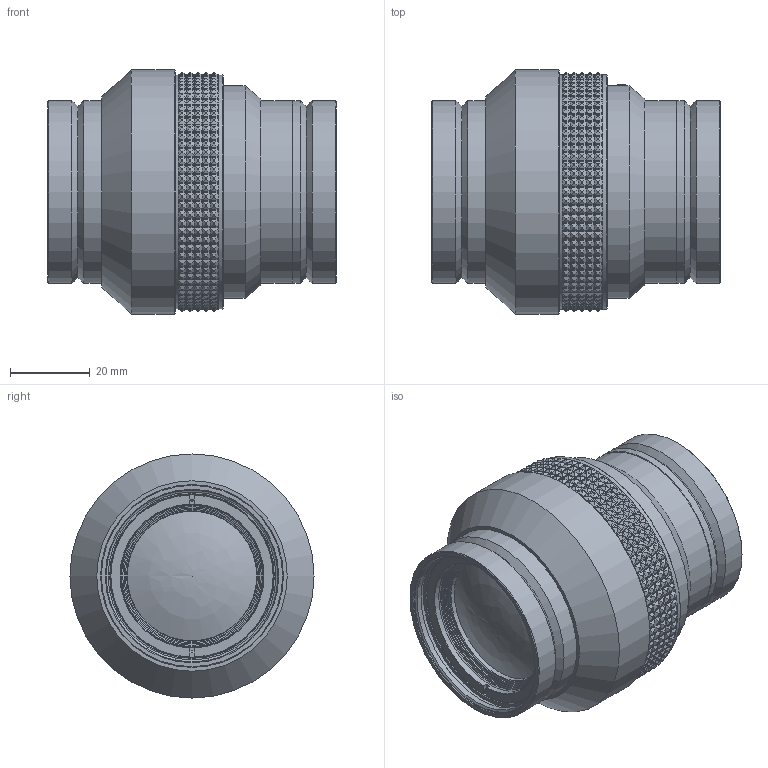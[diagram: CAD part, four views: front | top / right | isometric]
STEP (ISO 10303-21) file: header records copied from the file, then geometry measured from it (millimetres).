
FILE_DESCRIPTION(/* description */ (''),/* implementation_level */ '2;1');
FILE_NAME(/* name */ 'IDummy004373_a.stp',/* time_stamp */ '2011-09-19T09:57:28+02:00',/* author */ (''),/* organization */ (''),/* preprocessor_version */ 'ST-DEVELOPER v11',/* originating_system */ 'SIEMENS UGS NX 6.0',/* authorisation */ '');
FILE_SCHEMA (('AUTOMOTIVE_DESIGN { 1 0 10303 214 1 1 1 1 }'));
Length unit declared in the file: millimetre
Products named in the file (1): cordB83Erc31
Bounding box: 72.49 x 61.4 x 61.4 mm (x, y, z)
Volume: 138467.6 mm3; surface area: 19668.6 mm2
Topology: 1 solids, 1 shells, 2578 faces, 6512 edges, 3945 vertices
Faces by surface type: plane 1267, cone 876, cylinder 433, revolution 2
Full cylindrical faces by diameter (mm): 2.5 x1, 32.6 x2, 36 x2, 41 x2, 42.188 x2, 43.2 x4, 45.8 x1, 46 x4, 53.4 x1, 59 x2, 61.4 x1
Entity records: 78459 total; most frequent: CARTESIAN_POINT 22928, ORIENTED_EDGE 12842, DIRECTION 9694, EDGE_CURVE 6421, AXIS2_PLACEMENT_3D 3999, VERTEX_POINT 3925, B_SPLINE_CURVE_WITH_KNOTS 3307, EDGE_LOOP 2656
